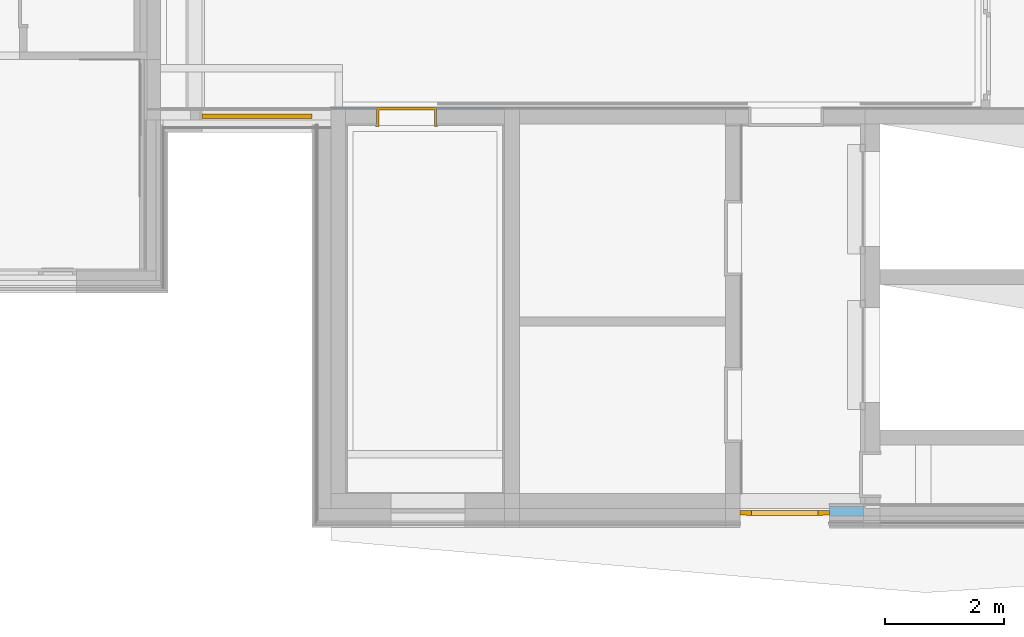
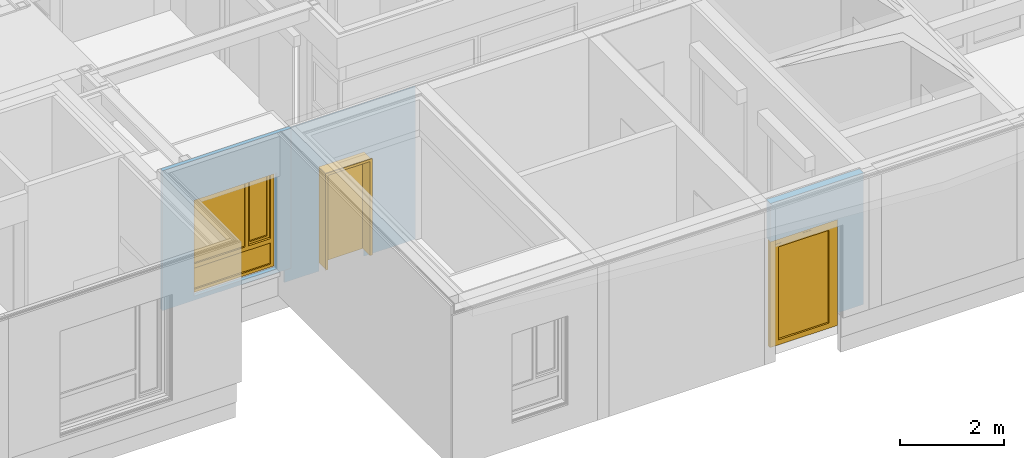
# One storey, part 87 of 207: 2 doors, 1 window, 3 openings, plus 3 elements that do not belong to this part.
"""IFC4 building model written with IfcOpenShell, lengths in metres."""

from ifc_helpers import new_model, entity, si_unit, converted_unit, derived_unit, frame, frame_2d, origin, origin_with_axes, place, context, subcontext, project, spatial, polyline, rectangle, outline, extrude, closed_shell, open_shell, faceted_brep, surface_model, source, transform, mapped, material, type_object, element, fill, save


model = new_model("IFC4")

# Units and contexts
model_context = context("Model", 3, precision=1e-05, world=origin())
body_context = subcontext(model_context, "Body", "Model", "MODEL_VIEW")
ifc_project = project(units=[si_unit("LENGTHUNIT", "METRE"), si_unit("AREAUNIT", "SQUARE_METRE"), si_unit("VOLUMEUNIT", "CUBIC_METRE"), si_unit("MASSUNIT", "GRAM", prefix="KILO"), converted_unit("PLANEANGLEUNIT", "DEGREE", entity("IfcPlaneAngleMeasure", 0.0174532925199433), si_unit("PLANEANGLEUNIT", "RADIAN"), dimensions=[0, 0, 0, 0, 0, 0, 0]), derived_unit("THERMALTRANSMITTANCEUNIT", [(si_unit("POWERUNIT", "WATT"), 1), (si_unit("THERMODYNAMICTEMPERATUREUNIT", "KELVIN"), -1), (si_unit("LENGTHUNIT", "METRE"), -2)]), derived_unit("VOLUMETRICFLOWRATEUNIT", [(si_unit("LENGTHUNIT", "METRE"), 3), (converted_unit("TIMEUNIT", "hour", entity("IfcTimeMeasure", 3600.0), si_unit("TIMEUNIT", "SECOND"), dimensions=[0, 0, 1, 0, 0, 0, 0]), -1), (si_unit("LENGTHUNIT", "METRE"), -1)])], contexts=[model_context])

# Site, building, storey
site_placement = place(None, origin())
site = spatial("IfcSite", under=ifc_project, at=site_placement, Name="Psychiatrie Neubau Wunstorf", CompositionType="ELEMENT")
building_placement = place(site_placement, origin())
building = spatial("IfcBuilding", under=site, at=building_placement, Name="Neubau H2 Stationsgebäude", CompositionType="ELEMENT")
storey_placement = place(building_placement, frame((0.0, 0.0, -0.2)))
storey = spatial("IfcBuildingStorey", under=building, at=storey_placement, Name="H2 Ebene 0", CompositionType="ELEMENT", Elevation=-0.2)

# Wall, opening, door
ifc_material_1 = material(Name="WA-HD")
wall_1_placement = place(storey_placement, frame((46.9900052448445, -6.1570003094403, 0.5), z_axis=(0.0, 0.0, 1.0), x_axis=(-1.0, 0.0, 0.0)))
wall_1 = element("IfcWall", 1, at=wall_1_placement, inside=storey, material=ifc_material_1, context=body_context, shape_type="SweptSolid", body=[
    extrude(rectangle(XDim=2.07400036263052, YDim=0.16, at=frame_2d((1.03700018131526, 0.08), x_axis=(1.0, 0.0))), origin_with_axes(), (0.0, 0.0, 1.0), 3.1),
])
opening_1_placement = place(wall_1_placement, frame((0.573974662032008, 0.0, -0.5), z_axis=(0.0, 1.0, 0.0), x_axis=(0.0, 0.0, 1.0)))
opening_1 = element("IfcOpeningElement", 2, at=opening_1_placement, cuts=wall_1, Name="Türöffnung", ObjectType="Opening", context=body_context, shape_type="SweptSolid", body=[
    extrude(outline(polyline([(2.7, 1.50002570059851), (2.7, 0.0), (0.0, 0.0), (0.0, 1.50002570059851), (2.7, 1.50002570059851)])), origin_with_axes(), (0.0, 0.0, 1.0), 0.16),
])
ifc_material_2 = material(Name="TI-1F-UZ-D")
door_type_1 = type_object("IfcDoorType", Name="SMT", OperationType="SINGLE_SWING_RIGHT", ParameterTakesPrecedence=False, PredefinedType="DOOR")
shared_shape_1 = source(origin_with_axes(), body_context, "Body", "SurfaceModel", [
    surface_model("IfcShellBasedSurfaceModel", [(1.50002570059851, 0.0, 2.7), (1.50002570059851, 0.0, 0.2), (1.45002570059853, 0.0, 0.2), (1.45002570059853, 0.0, 2.7), (1.50002570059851, 0.079, 0.2), (1.50002570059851, 0.079, 2.7), (1.45002570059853, 0.079, 2.7), (1.45002570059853, 0.079, 0.2)], [closed_shell([[[0, 1, 2, 3]], [[4, 5, 6, 7]], [[1, 0, 5, 4]], [[2, 1, 4, 7]], [[3, 2, 7, 6]], [[0, 3, 6, 5]]], orient=[[False], [False], [False], [False], [False], [False]])]),
    surface_model("IfcShellBasedSurfaceModel", [(0.0499999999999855, 0.0, 2.7), (0.0499999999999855, 0.0, 0.2), (0.0, 0.0, 0.2), (0.0, 0.0, 2.7), (0.0499999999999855, 0.079, 0.2), (0.0499999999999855, 0.079, 2.7), (0.0, 0.079, 2.7), (0.0, 0.079, 0.2)], [closed_shell([[[0, 1, 2, 3]], [[4, 5, 6, 7]], [[1, 0, 5, 4]], [[2, 1, 4, 7]], [[3, 2, 7, 6]], [[0, 3, 6, 5]]], orient=[[False], [False], [False], [False], [False], [False]])]),
    surface_model("IfcShellBasedSurfaceModel", [(1.45002570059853, 0.0, 2.7), (1.45002570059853, 0.0, 2.65), (0.0499999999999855, 0.0, 2.65), (0.0499999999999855, 0.0, 2.7), (1.45002570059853, 0.079, 2.65), (1.45002570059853, 0.079, 2.7), (0.0499999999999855, 0.079, 2.7), (0.0499999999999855, 0.079, 2.65)], [closed_shell([[[0, 1, 2, 3]], [[4, 5, 6, 7]], [[1, 0, 5, 4]], [[2, 1, 4, 7]], [[3, 2, 7, 6]], [[0, 3, 6, 5]]], orient=[[False], [False], [False], [False], [False], [False]])]),
    surface_model("IfcShellBasedSurfaceModel", [(1.45002570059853, -0.0005, 2.65), (1.45002570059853, -0.0005, 0.2), (1.37002570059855, -0.0005, 0.2), (1.37002570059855, -0.0005, 2.65), (1.45002570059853, 0.0795, 0.2), (1.45002570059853, 0.0795, 2.65), (1.37002570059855, 0.0795, 2.65), (1.37002570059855, 0.0795, 0.2)], [closed_shell([[[0, 1, 2, 3]], [[4, 5, 6, 7]], [[1, 0, 5, 4]], [[2, 1, 4, 7]], [[3, 2, 7, 6]], [[0, 3, 6, 5]]], orient=[[False], [False], [False], [False], [False], [False]])]),
    surface_model("IfcShellBasedSurfaceModel", [(0.129999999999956, -0.0005, 2.65), (0.129999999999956, -0.0005, 0.2), (0.0499999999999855, -0.0005, 0.2), (0.0499999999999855, -0.0005, 2.65), (0.129999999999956, 0.0795, 0.2), (0.129999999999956, 0.0795, 2.65), (0.0499999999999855, 0.0795, 2.65), (0.0499999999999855, 0.0795, 0.2)], [closed_shell([[[0, 1, 2, 3]], [[4, 5, 6, 7]], [[1, 0, 5, 4]], [[2, 1, 4, 7]], [[3, 2, 7, 6]], [[0, 3, 6, 5]]], orient=[[False], [False], [False], [False], [False], [False]])]),
    surface_model("IfcShellBasedSurfaceModel", [(1.37002570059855, -0.0005, 2.65), (1.37002570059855, -0.0005, 2.57), (0.129999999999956, -0.0005, 2.57), (0.129999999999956, -0.0005, 2.65), (1.37002570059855, 0.0795, 2.57), (1.37002570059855, 0.0795, 2.65), (0.129999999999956, 0.0795, 2.65), (0.129999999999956, 0.0795, 2.57)], [closed_shell([[[0, 1, 2, 3]], [[4, 5, 6, 7]], [[1, 0, 5, 4]], [[2, 1, 4, 7]], [[3, 2, 7, 6]], [[0, 3, 6, 5]]], orient=[[False], [False], [False], [False], [False], [False]])]),
    surface_model("IfcShellBasedSurfaceModel", [(1.39002570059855, 0.0005, 2.59), (1.39002570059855, 0.0005, 0.2), (1.31002570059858, 0.0005, 0.2), (1.31002570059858, 0.0005, 2.59), (1.39002570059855, 0.0805, 0.2), (1.39002570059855, 0.0805, 2.59), (1.31002570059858, 0.0805, 2.59), (1.31002570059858, 0.0805, 0.2)], [closed_shell([[[0, 1, 2, 3]], [[4, 5, 6, 7]], [[1, 0, 5, 4]], [[2, 1, 4, 7]], [[3, 2, 7, 6]], [[0, 3, 6, 5]]], orient=[[False], [False], [False], [False], [False], [False]])]),
    surface_model("IfcShellBasedSurfaceModel", [(0.189999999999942, 0.0005, 2.59), (0.189999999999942, 0.0005, 0.2), (0.109999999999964, 0.0005, 0.2), (0.109999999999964, 0.0005, 2.59), (0.189999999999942, 0.0805, 0.2), (0.189999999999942, 0.0805, 2.59), (0.109999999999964, 0.0805, 2.59), (0.109999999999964, 0.0805, 0.2)], [closed_shell([[[0, 1, 2, 3]], [[4, 5, 6, 7]], [[1, 0, 5, 4]], [[2, 1, 4, 7]], [[3, 2, 7, 6]], [[0, 3, 6, 5]]], orient=[[False], [False], [False], [False], [False], [False]])]),
    surface_model("IfcShellBasedSurfaceModel", [(1.31002570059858, 0.0005, 0.32), (1.31002570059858, 0.0005, 0.2), (0.189999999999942, 0.0005, 0.2), (0.189999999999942, 0.0005, 0.32), (1.31002570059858, 0.0805, 0.2), (1.31002570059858, 0.0805, 0.32), (0.189999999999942, 0.0805, 0.32), (0.189999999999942, 0.0805, 0.2)], [closed_shell([[[0, 1, 2, 3]], [[4, 5, 6, 7]], [[1, 0, 5, 4]], [[2, 1, 4, 7]], [[3, 2, 7, 6]], [[0, 3, 6, 5]]], orient=[[False], [False], [False], [False], [False], [False]])]),
    surface_model("IfcShellBasedSurfaceModel", [(1.31002570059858, 0.0005, 2.59), (1.31002570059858, 0.0005, 2.51), (0.189999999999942, 0.0005, 2.51), (0.189999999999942, 0.0005, 2.59), (1.31002570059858, 0.0805, 2.51), (1.31002570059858, 0.0805, 2.59), (0.189999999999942, 0.0805, 2.59), (0.189999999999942, 0.0805, 2.51)], [closed_shell([[[0, 1, 2, 3]], [[4, 5, 6, 7]], [[1, 0, 5, 4]], [[2, 1, 4, 7]], [[3, 2, 7, 6]], [[0, 3, 6, 5]]], orient=[[False], [False], [False], [False], [False], [False]])]),
    surface_model("IfcShellBasedSurfaceModel", [(1.31002570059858, 0.0405, 0.32), (0.189999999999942, 0.0405, 0.32), (0.189999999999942, 0.0405, 2.51), (1.31002570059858, 0.0405, 2.51)], [open_shell([[[0, 1, 2, 3]]], orient=[[False]])]),
])
door_1_placement = place(opening_1_placement, frame((0.0, 0.0, 0.07), z_axis=(1.0, 0.0, 0.0), x_axis=(0.0, 1.0, 0.0)))
door_1 = element("IfcDoor", 3, at=door_1_placement, inside=storey, type_object=door_type_1, material=ifc_material_2, Name="SMT", OverallHeight=2.7, OverallWidth=1.50003, context=body_context, shape_type="MappedRepresentation", body=[
    mapped(shared_shape_1, transform((0.0, 0.0, 0.0), x_axis=(1.0, 0.0, 0.0), y_axis=(0.0, 1.0, 0.0), z_axis=(0.0, 0.0, 1.0), scale=1.0)),
])
fill(opening_1, door_1)

# Wall, opening, window
ifc_material_3 = material(Name="WA-DL")
wall_2_placement = place(storey_placement, frame((38.03, 0.3405, 0.5), z_axis=(0.0, 0.0, 1.0), x_axis=(-1.0, 0.0, 0.0)))
wall_2 = element("IfcWall", 4, at=wall_2_placement, inside=storey, material=ifc_material_3, context=body_context, shape_type="SweptSolid", body=[
    extrude(outline(polyline([(-2.865, -0.0799994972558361), (-0.69599501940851, -0.0799994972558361), (-0.69599501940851, -0.0794958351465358), (-0.49999501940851, -0.0794958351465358), (-0.49999501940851, -0.0799994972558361), (0.0, -0.0799994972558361), (0.0, 0.0), (-2.634, 0.0), (-2.634, -0.0144994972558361), (-2.655, -0.0144994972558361), (-2.655, 0.0), (-2.865, 0.0), (-2.865, -0.0799994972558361)])), frame((2.865, 0.0799994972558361, 0.0), z_axis=(0.0, 0.0, 1.0), x_axis=(1.0, 0.0, 0.0)), (0.0, 0.0, 1.0), 3.3),
])
opening_2_placement = place(wall_2_placement, frame((2.16900498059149, 0.0799994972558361, 0.1), z_axis=(0.0, -1.0, 0.0), x_axis=(0.0, 0.0, 1.0)))
opening_2 = element("IfcOpeningElement", 5, at=opening_2_placement, cuts=wall_2, Name="Fensteröffnung", ObjectType="Opening", context=body_context, shape_type="SweptSolid", body=[
    extrude(outline(polyline([(2.26, 1.848005), (2.26, 0.0), (0.0, 0.0), (0.0, 1.848005), (2.26, 1.848005)])), origin_with_axes(), (0.0, 0.0, 1.0), 0.0799994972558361),
])
shared_shape_2 = source(origin_with_axes(), body_context, "Body", "SurfaceModel", [
    surface_model("IfcShellBasedSurfaceModel", [(0.0, 0.00049949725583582, 2.26), (0.07, 0.00049949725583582, 2.26), (0.07, 0.000499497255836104, 0.0), (0.0, 0.000499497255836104, 0.0), (0.0, 0.0704994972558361, 0.0), (0.07, 0.0704994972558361, 0.0), (0.07, 0.0704994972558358, 2.26), (0.0, 0.0704994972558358, 2.26)], [closed_shell([[[0, 1, 2, 3]], [[4, 5, 6, 7]], [[3, 4, 7, 0]], [[2, 5, 4, 3]], [[1, 6, 5, 2]], [[0, 7, 6, 1]]], orient=[[False], [False], [False], [False], [False], [False]])]),
    surface_model("IfcShellBasedSurfaceModel", [(1.778004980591, 0.00049949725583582, 2.26), (1.848004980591, 0.00049949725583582, 2.26), (1.848004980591, 0.000499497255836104, 0.0), (1.778004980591, 0.000499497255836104, 0.0), (1.778004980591, 0.0704994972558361, 0.0), (1.848004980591, 0.0704994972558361, 0.0), (1.848004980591, 0.0704994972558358, 2.26), (1.778004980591, 0.0704994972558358, 2.26)], [closed_shell([[[0, 1, 2, 3]], [[4, 5, 6, 7]], [[3, 4, 7, 0]], [[2, 5, 4, 3]], [[1, 6, 5, 2]], [[0, 7, 6, 1]]], orient=[[False], [False], [False], [False], [False], [False]])]),
    surface_model("IfcShellBasedSurfaceModel", [(0.07, 0.000499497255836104, 0.07), (1.778004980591, 0.000499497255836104, 0.07), (1.778004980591, 0.000499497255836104, 0.0), (0.07, 0.000499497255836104, 0.0), (0.07, 0.0704994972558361, 0.0), (1.778004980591, 0.0704994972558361, 0.0), (1.778004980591, 0.0704994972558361, 0.07), (0.07, 0.0704994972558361, 0.07)], [closed_shell([[[0, 1, 2, 3]], [[4, 5, 6, 7]], [[3, 4, 7, 0]], [[2, 5, 4, 3]], [[1, 6, 5, 2]], [[0, 7, 6, 1]]], orient=[[False], [False], [False], [False], [False], [False]])]),
    surface_model("IfcShellBasedSurfaceModel", [(0.07, 0.000499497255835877, 2.26), (1.778004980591, 0.000499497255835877, 2.26), (1.778004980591, 0.000499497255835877, 2.19), (0.07, 0.000499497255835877, 2.19), (0.07, 0.0704994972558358, 2.19), (1.778004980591, 0.0704994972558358, 2.19), (1.778004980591, 0.0704994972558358, 2.26), (0.07, 0.0704994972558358, 2.26)], [closed_shell([[[0, 1, 2, 3]], [[4, 5, 6, 7]], [[3, 4, 7, 0]], [[2, 5, 4, 3]], [[1, 6, 5, 2]], [[0, 7, 6, 1]]], orient=[[False], [False], [False], [False], [False], [False]])]),
    surface_model("IfcShellBasedSurfaceModel", [(0.07, 0.000499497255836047, 0.67), (1.778004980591, 0.000499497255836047, 0.67), (1.778004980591, 0.000499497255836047, 0.57), (0.07, 0.000499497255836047, 0.57), (0.07, 0.0704994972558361, 0.57), (1.778004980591, 0.0704994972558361, 0.57), (1.778004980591, 0.070499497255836, 0.67), (0.07, 0.070499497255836, 0.67)], [closed_shell([[[0, 1, 2, 3]], [[4, 5, 6, 7]], [[3, 4, 7, 0]], [[2, 5, 4, 3]], [[1, 6, 5, 2]], [[0, 7, 6, 1]]], orient=[[False], [False], [False], [False], [False], [False]])]),
    surface_model("IfcShellBasedSurfaceModel", [(0.07, 0.0354994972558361, 0.07), (0.07, 0.035499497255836, 0.57), (1.778004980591, 0.035499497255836, 0.57), (1.778004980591, 0.0354994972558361, 0.07)], [open_shell([[[0, 1, 2, 3]]], orient=[[False]])]),
    surface_model("IfcShellBasedSurfaceModel", [(0.57, 0.00049949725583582, 2.19), (0.64, 0.00049949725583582, 2.19), (0.64, 0.000499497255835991, 0.67), (0.57, 0.000499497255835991, 0.67), (0.57, 0.070499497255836, 0.67), (0.64, 0.070499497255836, 0.67), (0.64, 0.0704994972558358, 2.19), (0.57, 0.0704994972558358, 2.19)], [closed_shell([[[0, 1, 2, 3]], [[4, 5, 6, 7]], [[3, 4, 7, 0]], [[2, 5, 4, 3]], [[1, 6, 5, 2]], [[0, 7, 6, 1]]], orient=[[False], [False], [False], [False], [False], [False]])]),
    surface_model("IfcShellBasedSurfaceModel", [(0.05, -0.0495005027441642, 2.21), (0.12, -0.0495005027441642, 2.21), (0.12, -0.049500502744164, 0.65), (0.05, -0.049500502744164, 0.65), (0.05, 0.020499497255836, 0.65), (0.12, 0.020499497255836, 0.65), (0.12, 0.0204994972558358, 2.21), (0.05, 0.0204994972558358, 2.21)], [closed_shell([[[0, 1, 2, 3]], [[4, 5, 6, 7]], [[3, 4, 7, 0]], [[2, 5, 4, 3]], [[1, 6, 5, 2]], [[0, 7, 6, 1]]], orient=[[False], [False], [False], [False], [False], [False]])]),
    surface_model("IfcShellBasedSurfaceModel", [(0.52, -0.0495005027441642, 2.21), (0.59, -0.0495005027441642, 2.21), (0.59, -0.049500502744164, 0.65), (0.52, -0.049500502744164, 0.65), (0.52, 0.020499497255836, 0.65), (0.59, 0.020499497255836, 0.65), (0.59, 0.0204994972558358, 2.21), (0.52, 0.0204994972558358, 2.21)], [closed_shell([[[0, 1, 2, 3]], [[4, 5, 6, 7]], [[3, 4, 7, 0]], [[2, 5, 4, 3]], [[1, 6, 5, 2]], [[0, 7, 6, 1]]], orient=[[False], [False], [False], [False], [False], [False]])]),
    surface_model("IfcShellBasedSurfaceModel", [(0.12, -0.049500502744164, 0.72), (0.52, -0.049500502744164, 0.72), (0.52, -0.049500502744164, 0.65), (0.12, -0.049500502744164, 0.65), (0.12, 0.020499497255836, 0.65), (0.52, 0.020499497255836, 0.65), (0.52, 0.020499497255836, 0.72), (0.12, 0.020499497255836, 0.72)], [closed_shell([[[0, 1, 2, 3]], [[4, 5, 6, 7]], [[3, 4, 7, 0]], [[2, 5, 4, 3]], [[1, 6, 5, 2]], [[0, 7, 6, 1]]], orient=[[False], [False], [False], [False], [False], [False]])]),
    surface_model("IfcShellBasedSurfaceModel", [(0.12, -0.0495005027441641, 2.21), (0.52, -0.0495005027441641, 2.21), (0.52, -0.0495005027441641, 2.14), (0.12, -0.0495005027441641, 2.14), (0.12, 0.0204994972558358, 2.14), (0.52, 0.0204994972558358, 2.14), (0.52, 0.0204994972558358, 2.21), (0.12, 0.0204994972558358, 2.21)], [closed_shell([[[0, 1, 2, 3]], [[4, 5, 6, 7]], [[3, 4, 7, 0]], [[2, 5, 4, 3]], [[1, 6, 5, 2]], [[0, 7, 6, 1]]], orient=[[False], [False], [False], [False], [False], [False]])]),
    surface_model("IfcShellBasedSurfaceModel", [(0.64, 0.035499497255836, 0.67), (0.64, 0.0354994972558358, 2.19), (1.778004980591, 0.0354994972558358, 2.19), (1.778004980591, 0.035499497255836, 0.67)], [open_shell([[[0, 1, 2, 3]]], orient=[[False]])]),
    surface_model("IfcShellBasedSurfaceModel", [(0.12, -0.014500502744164, 0.72), (0.12, -0.0145005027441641, 2.14), (0.52, -0.0145005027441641, 2.14), (0.52, -0.014500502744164, 0.72)], [open_shell([[[0, 1, 2, 3]]], orient=[[False]])]),
])
window_placement = place(opening_2_placement, frame((0.0, 1.848005, 0.181499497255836), z_axis=(1.0, 0.0, 0.0), x_axis=(0.0, -1.0, 0.0)))
window = element("IfcWindow", 6, at=window_placement, inside=storey, Name="Fenster", OverallHeight=2.26, OverallWidth=1.848, PartitioningType="USERDEFINED", PredefinedType="WINDOW", context=body_context, shape_type="MappedRepresentation", body=[
    mapped(shared_shape_2, transform((0.0, 0.0, 0.0), x_axis=(1.0, 0.0, 0.0), y_axis=(0.0, 1.0, 0.0), z_axis=(0.0, 0.0, 1.0), scale=1.0)),
])
fill(opening_2, window)

# Wall, opening, door
ifc_material_4 = material(Name="WI-LB")
wall_3_placement = place(storey_placement, frame((40.95, 0.549, 0.0), z_axis=(0.0, 0.0, 1.0), x_axis=(-1.0, 0.0, 0.0)))
wall_3 = element("IfcWall", 7, at=wall_3_placement, inside=storey, material=ifc_material_4, context=body_context, shape_type="SweptSolid", body=[
    extrude(rectangle(XDim=2.92, YDim=0.024, at=frame_2d((1.46, 0.012), x_axis=(1.0, 0.0))), origin_with_axes(), (0.0, 0.0, 1.0), 3.6),
])
opening_3_placement = place(wall_3_placement, frame((2.14999999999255, 0.024, 0.0), z_axis=(0.0, -1.0, 0.0), x_axis=(0.0, 0.0, 1.0)))
opening_3 = element("IfcOpeningElement", 8, at=opening_3_placement, cuts=wall_3, Name="Türöffnung", ObjectType="Opening", context=body_context, shape_type="SweptSolid", body=[
    extrude(outline(polyline([(2.46, 1.01), (2.46, 0.0), (0.0, 0.0), (0.0, 1.01), (2.46, 1.01)])), origin_with_axes(), (0.0, 0.0, 1.0), 0.024),
])
ifc_material_5 = material(Name="TI-1F-UZ-D")
door_type_2 = type_object("IfcDoorType", Name="SMT", OperationType="SINGLE_SWING_RIGHT", ParameterTakesPrecedence=False, PredefinedType="DOOR")
shared_shape_3 = source(origin_with_axes(), body_context, "Body", "Brep", [
    faceted_brep([(0.0, -0.0150000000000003, 2.46), (0.04, -0.0150000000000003, 2.46), (0.04, -0.0150000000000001, 0.2), (0.0, -0.0150000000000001, 0.2), (0.0, 0.313, 0.2), (0.04, 0.313, 0.2), (0.04, 0.313, 2.46), (0.0, 0.313, 2.46)], [[[0, 1, 2, 3]], [[4, 5, 6, 7]], [[3, 4, 7, 0]], [[2, 5, 4, 3]], [[1, 6, 5, 2]], [[0, 7, 6, 1]]], orient=[[False], [False], [False], [False], [False], [False]]),
    faceted_brep([(0.0, -0.0150000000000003, 2.475), (0.0, -0.0150000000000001, 0.2), (-0.015, -0.0150000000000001, 0.2), (-0.015, -0.0150000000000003, 2.475), (0.0, 0.0, 0.2), (0.0, 0.0, 2.475), (-0.015, 0.0, 2.475), (-0.015, 0.0, 0.2)], [[[0, 1, 2, 3]], [[4, 5, 6, 7]], [[1, 0, 5, 4]], [[2, 1, 4, 7]], [[3, 2, 7, 6]], [[0, 3, 6, 5]]], orient=[[False], [False], [False], [False], [False], [False]]),
    faceted_brep([(0.0, 0.298, 2.475), (0.0, 0.298, 0.2), (-0.015, 0.298, 0.2), (-0.015, 0.298, 2.475), (0.0, 0.313, 0.2), (0.0, 0.313, 2.475), (-0.015, 0.313, 2.475), (-0.015, 0.313, 0.2)], [[[0, 1, 2, 3]], [[4, 5, 6, 7]], [[1, 0, 5, 4]], [[2, 1, 4, 7]], [[3, 2, 7, 6]], [[0, 3, 6, 5]]], orient=[[False], [False], [False], [False], [False], [False]]),
    faceted_brep([(0.97, -0.0150000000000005, 2.46), (1.01, -0.0150000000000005, 2.46), (1.01, -0.0150000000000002, 0.2), (0.97, -0.0150000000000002, 0.2), (0.97, 0.313, 0.2), (1.01, 0.313, 0.2), (1.01, 0.313, 2.46), (0.97, 0.313, 2.46)], [[[0, 1, 2, 3]], [[4, 5, 6, 7]], [[3, 4, 7, 0]], [[2, 5, 4, 3]], [[1, 6, 5, 2]], [[0, 7, 6, 1]]], orient=[[False], [False], [False], [False], [False], [False]]),
    faceted_brep([(1.01, -0.0150000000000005, 2.475), (1.025, -0.0150000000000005, 2.475), (1.025, -0.0150000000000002, 0.2), (1.01, -0.0150000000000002, 0.2), (1.01, 0.0, 0.2), (1.025, 0.0, 0.2), (1.025, 0.0, 2.475), (1.01, 0.0, 2.475)], [[[0, 1, 2, 3]], [[4, 5, 6, 7]], [[3, 4, 7, 0]], [[2, 5, 4, 3]], [[1, 6, 5, 2]], [[0, 7, 6, 1]]], orient=[[False], [False], [False], [False], [False], [False]]),
    faceted_brep([(1.01, 0.298, 2.475), (1.025, 0.298, 2.475), (1.025, 0.298, 0.2), (1.01, 0.298, 0.2), (1.01, 0.313, 0.2), (1.025, 0.313, 0.2), (1.025, 0.313, 2.475), (1.01, 0.313, 2.475)], [[[0, 1, 2, 3]], [[4, 5, 6, 7]], [[3, 4, 7, 0]], [[2, 5, 4, 3]], [[1, 6, 5, 2]], [[0, 7, 6, 1]]], orient=[[False], [False], [False], [False], [False], [False]]),
    faceted_brep([(0.04, -0.0150000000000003, 2.46), (0.97, -0.0150000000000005, 2.46), (0.97, -0.0150000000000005, 2.42), (0.04, -0.0150000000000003, 2.42), (0.04, 0.313, 2.42), (0.97, 0.313, 2.42), (0.97, 0.313, 2.46), (0.04, 0.313, 2.46)], [[[0, 1, 2, 3]], [[4, 5, 6, 7]], [[3, 4, 7, 0]], [[2, 5, 4, 3]], [[1, 6, 5, 2]], [[0, 7, 6, 1]]], orient=[[False], [False], [False], [False], [False], [False]]),
    faceted_brep([(0.0, -0.0150000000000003, 2.475), (1.01, -0.0150000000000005, 2.475), (1.01, -0.0150000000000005, 2.46), (0.0, -0.0150000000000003, 2.46), (0.0, 0.0, 2.46), (1.01, 0.0, 2.46), (1.01, 0.0, 2.475), (0.0, 0.0, 2.475)], [[[0, 1, 2, 3]], [[4, 5, 6, 7]], [[3, 4, 7, 0]], [[2, 5, 4, 3]], [[1, 6, 5, 2]], [[0, 7, 6, 1]]], orient=[[False], [False], [False], [False], [False], [False]]),
    faceted_brep([(0.0, 0.298, 2.475), (1.01, 0.298, 2.475), (1.01, 0.298, 2.46), (0.0, 0.298, 2.46), (0.0, 0.313, 2.46), (1.01, 0.313, 2.46), (1.01, 0.313, 2.475), (0.0, 0.313, 2.475)], [[[0, 1, 2, 3]], [[4, 5, 6, 7]], [[3, 4, 7, 0]], [[2, 5, 4, 3]], [[1, 6, 5, 2]], [[0, 7, 6, 1]]], orient=[[False], [False], [False], [False], [False], [False]]),
    faceted_brep([(0.025, 0.264, 2.435), (0.985, 0.264, 2.435), (0.985, 0.264, 0.2), (0.025, 0.264, 0.2), (0.025, 0.314, 0.2), (0.985, 0.314, 0.2), (0.985, 0.314, 2.435), (0.025, 0.314, 2.435)], [[[0, 1, 2, 3]], [[4, 5, 6, 7]], [[3, 4, 7, 0]], [[2, 5, 4, 3]], [[1, 6, 5, 2]], [[0, 7, 6, 1]]], orient=[[False], [False], [False], [False], [False], [False]]),
])
door_2_placement = place(opening_3_placement, frame((0.0, 0.0, -0.274), z_axis=(1.0, 0.0, 0.0), x_axis=(0.0, 1.0, 0.0)))
door_2 = element("IfcDoor", 9, at=door_2_placement, inside=storey, type_object=door_type_2, material=ifc_material_5, Name="SMT", OverallHeight=2.46, OverallWidth=1.01, context=body_context, shape_type="MappedRepresentation", body=[
    mapped(shared_shape_3, transform((0.0, 0.0, 0.0), x_axis=(1.0, 0.0, 0.0), y_axis=(0.0, 1.0, 0.0), z_axis=(0.0, 0.0, 1.0), scale=1.0)),
])
fill(opening_3, door_2)

save(model, "model.ifc")
